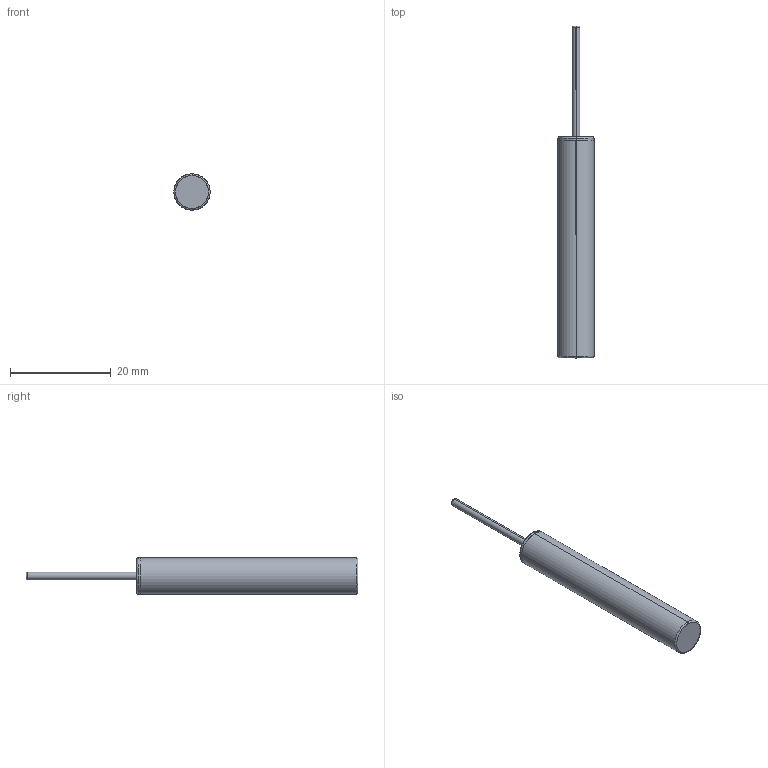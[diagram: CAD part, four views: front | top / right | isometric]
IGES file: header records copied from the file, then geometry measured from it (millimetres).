
Start section: SolidWorks IGES file using analytic representation for surfaces
Bounding box: 7.2 x 66 x 7.2 mm (x, y, z)
Surface area: 1316.5 mm2 (no closed solid volume)
Topology: 0 solids, 0 shells, 16 faces, 208 edges, 208 vertices
Faces by surface type: bspline 10, revolution 6
